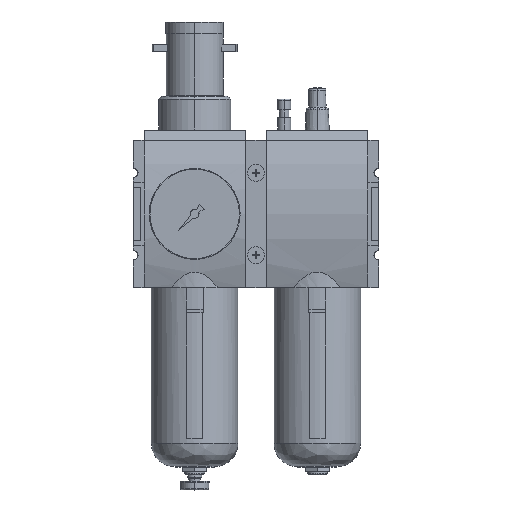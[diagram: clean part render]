
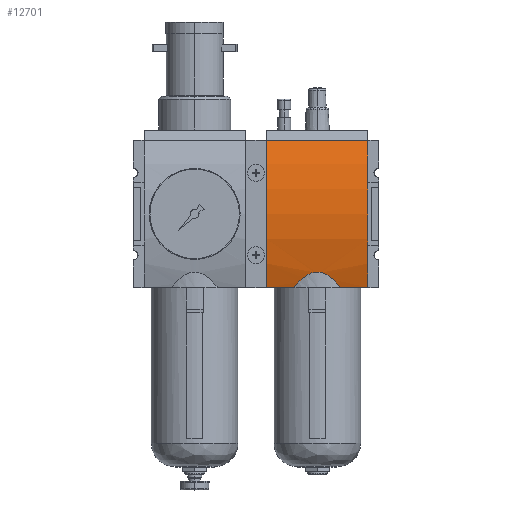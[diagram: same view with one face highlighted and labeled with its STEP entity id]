
A CAD part, top view. The second image highlights one B-rep face of the part: STEP entity #12701.
In plain terms, the highlighted cylindrical face has radius 150 mm (diameter 300 mm), a partial arc.
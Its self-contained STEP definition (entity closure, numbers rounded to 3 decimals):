
#9611=CARTESIAN_POINT('',(-35.,0.,-98.5));
#9612=DIRECTION('',(1.,0.,0.));
#9613=DIRECTION('',(0.,0.34,0.94));
#9614=AXIS2_PLACEMENT_3D('',#9611,#9612,#9613);
#9616=CARTESIAN_POINT('',(-35.,0.,-98.5));
#9617=DIRECTION('',(1.,0.,0.));
#9618=DIRECTION('',(0.,0.,1.));
#9619=AXIS2_PLACEMENT_3D('',#9616,#9617,#9618);
#10017=CARTESIAN_POINT('',(35.,0.,-98.5));
#10018=DIRECTION('',(-1.,0.,0.));
#10019=DIRECTION('',(0.,-0.34,0.94));
#10020=AXIS2_PLACEMENT_3D('',#10017,#10018,#10019);
#10022=CARTESIAN_POINT('',(35.,0.,-98.5));
#10023=DIRECTION('',(-1.,0.,0.));
#10024=DIRECTION('',(0.,0.,1.));
#10025=AXIS2_PLACEMENT_3D('',#10022,#10023,#10024);
#10391=DIRECTION('',(-1.,0.,0.));
#10392=VECTOR('',#10391,18.78);
#10393=CARTESIAN_POINT('',(-16.22,-51.,42.564));
#10394=LINE('',#10393,#10392);
#10395=DIRECTION('',(1.,0.,0.));
#10396=VECTOR('',#10395,70.);
#10397=CARTESIAN_POINT('',(-35.,51.,42.564));
#10398=LINE('',#10397,#10396);
#10399=DIRECTION('',(-1.,0.,0.));
#10400=VECTOR('',#10399,18.78);
#10401=CARTESIAN_POINT('',(35.,-51.,42.564));
#10402=LINE('',#10401,#10400);
#10403=CARTESIAN_POINT('',(16.22,-51.,42.564));
#10404=CARTESIAN_POINT('',(15.528,-50.151,
42.871));
#10405=CARTESIAN_POINT('',(14.177,-48.575,
43.423));
#10406=CARTESIAN_POINT('',(12.269,-46.581,
44.088));
#10407=CARTESIAN_POINT('',(10.47,-44.918,
44.62));
#10408=CARTESIAN_POINT('',(8.782,-43.565,
45.036));
#10409=CARTESIAN_POINT('',(7.201,-42.492,
45.357));
#10410=CARTESIAN_POINT('',(5.732,-41.672,
45.596));
#10411=CARTESIAN_POINT('',(4.358,-41.066,
45.769));
#10412=CARTESIAN_POINT('',(3.069,-40.644,
45.889));
#10413=CARTESIAN_POINT('',(1.838,-40.376,
45.964));
#10414=CARTESIAN_POINT('',(0.643,-40.244,
46.001));
#10415=CARTESIAN_POINT('',(-0.538,-40.238,
46.002));
#10416=CARTESIAN_POINT('',(-1.735,-40.359,
45.968));
#10417=CARTESIAN_POINT('',(-2.951,-40.613,
45.897));
#10418=CARTESIAN_POINT('',(-4.227,-41.017,
45.783));
#10419=CARTESIAN_POINT('',(-5.592,-41.603,
45.616));
#10420=CARTESIAN_POINT('',(-7.068,-42.41,
45.381));
#10421=CARTESIAN_POINT('',(-8.663,-43.477,
45.063));
#10422=CARTESIAN_POINT('',(-10.373,-44.833,
44.646));
#10423=CARTESIAN_POINT('',(-12.201,-46.513,
44.111));
#10424=CARTESIAN_POINT('',(-14.142,-48.536,
43.437));
#10425=CARTESIAN_POINT('',(-15.517,-50.137,
42.876));
#10426=CARTESIAN_POINT('',(-16.22,-51.,42.564));
#11266=CARTESIAN_POINT('',(-35.,51.,42.564));
#11267=VERTEX_POINT('',#11266);
#11268=CARTESIAN_POINT('',(-35.,0.,51.5));
#11269=VERTEX_POINT('',#11268);
#11270=CARTESIAN_POINT('',(-35.,-51.,42.564));
#11271=VERTEX_POINT('',#11270);
#11470=CARTESIAN_POINT('',(35.,-51.,42.564));
#11471=VERTEX_POINT('',#11470);
#11472=CARTESIAN_POINT('',(35.,0.,51.5));
#11473=CARTESIAN_POINT('',(35.,51.,42.564));
#11474=VERTEX_POINT('',#11472);
#11475=VERTEX_POINT('',#11473);
#11498=CARTESIAN_POINT('',(-16.22,-51.,42.564));
#11499=VERTEX_POINT('',#11498);
#11502=CARTESIAN_POINT('',(16.22,-51.,42.564));
#11503=VERTEX_POINT('',#11502);
#12684=CARTESIAN_POINT('',(-35.,0.,-98.5));
#12685=DIRECTION('',(1.,0.,0.));
#12686=DIRECTION('',(0.,0.,-1.));
#12687=AXIS2_PLACEMENT_3D('',#12684,#12685,#12686);
#12688=CYLINDRICAL_SURFACE('',#12687,150.);
#12689=ORIENTED_EDGE('',*,*,#12124,.T.);
#12690=ORIENTED_EDGE('',*,*,#11769,.F.);
#12691=ORIENTED_EDGE('',*,*,#11767,.F.);
#12693=ORIENTED_EDGE('',*,*,#12692,.T.);
#12694=ORIENTED_EDGE('',*,*,#12191,.F.);
#12695=ORIENTED_EDGE('',*,*,#12189,.F.);
#12696=ORIENTED_EDGE('',*,*,#12130,.T.);
#12698=ORIENTED_EDGE('',*,*,#12697,.T.);
#12699=EDGE_LOOP('',(#12689,#12690,#12691,#12693,#12694,#12695,#12696,#12698));
#12700=FACE_OUTER_BOUND('',#12699,.F.);
#12701=ADVANCED_FACE('',(#12700),#12688,.T.);
#9615=CIRCLE('',#9614,150.);
#9620=CIRCLE('',#9619,150.);
#10021=CIRCLE('',#10020,150.);
#10026=CIRCLE('',#10025,150.);
#10427=B_SPLINE_CURVE_WITH_KNOTS('',3,(#10403,#10404,#10405,#10406,#10407,
#10408,#10409,#10410,#10411,#10412,#10413,#10414,#10415,#10416,#10417,#10418,
#10419,#10420,#10421,#10422,#10423,#10424,#10425,#10426),.UNSPECIFIED.,.F.,.F.,(
4,1,1,1,1,1,1,1,1,1,1,1,1,1,1,1,1,1,1,1,1,4),(0.,0.048,
0.095,0.143,0.19,0.238,
0.286,0.333,0.381,0.429,
0.476,0.524,0.571,0.619,
0.667,0.714,0.762,0.81,
0.857,0.905,0.952,1.),.UNSPECIFIED.);
#11767=EDGE_CURVE('',#11267,#11269,#9615,.T.);
#11769=EDGE_CURVE('',#11269,#11271,#9620,.T.);
#12124=EDGE_CURVE('',#11499,#11271,#10394,.T.);
#12130=EDGE_CURVE('',#11471,#11503,#10402,.T.);
#12189=EDGE_CURVE('',#11471,#11474,#10021,.T.);
#12191=EDGE_CURVE('',#11474,#11475,#10026,.T.);
#12692=EDGE_CURVE('',#11267,#11475,#10398,.T.);
#12697=EDGE_CURVE('',#11503,#11499,#10427,.T.);
